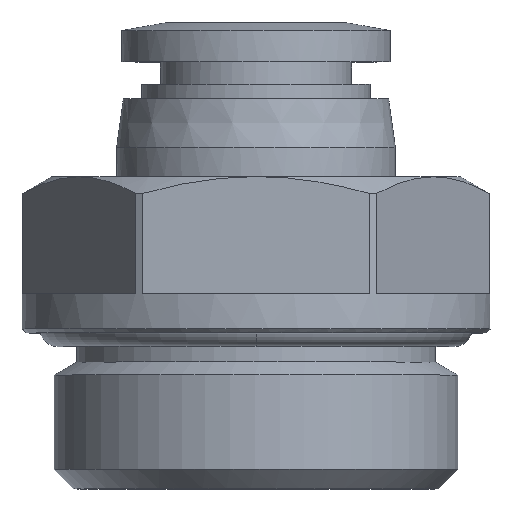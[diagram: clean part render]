
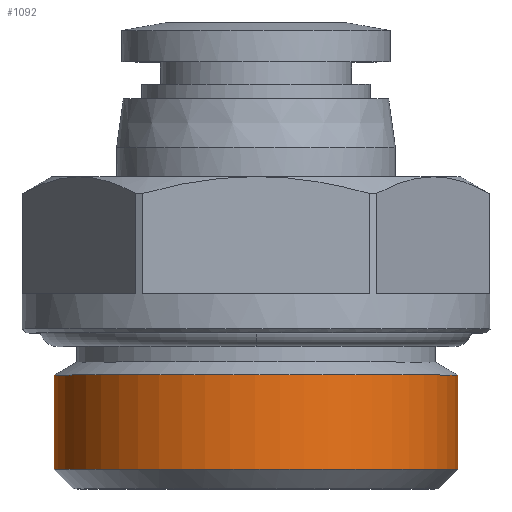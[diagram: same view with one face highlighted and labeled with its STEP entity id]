
A CAD part, top view. The second image highlights one B-rep face of the part: STEP entity #1092.
In plain terms, the highlighted cylindrical face has radius 10.35 mm (diameter 20.7 mm), a partial arc.
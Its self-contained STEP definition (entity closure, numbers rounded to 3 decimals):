
#33 = CARTESIAN_POINT ( 'NONE',  ( 2.709, 5.836, 10.081 ) ) ;
#60 = ORIENTED_EDGE ( 'NONE', *, *, #1005, .T. ) ;
#77 = VERTEX_POINT ( 'NONE', #1887 ) ;
#105 = LINE ( 'NONE', #1104, #1014 ) ;
#140 = CARTESIAN_POINT ( 'NONE',  ( 2.709, 1., 10.081 ) ) ;
#151 = DIRECTION ( 'NONE',  ( -1., 0., 0. ) ) ;
#155 = CARTESIAN_POINT ( 'NONE',  ( 10.35, 1., 0. ) ) ;
#187 = CARTESIAN_POINT ( 'NONE',  ( 9.044, 1., 5.212 ) ) ;
#200 = CARTESIAN_POINT ( 'NONE',  ( -10.35, 5.836, 0. ) ) ;
#259 = VERTEX_POINT ( 'NONE', #2806 ) ;
#266 = ORIENTED_EDGE ( 'NONE', *, *, #2541, .T. ) ;
#278 = CARTESIAN_POINT ( 'NONE',  ( 8.277, 5.836, 6.361 ) ) ;
#331 = FACE_OUTER_BOUND ( 'NONE', #1298, .T. ) ;
#369 = CARTESIAN_POINT ( 'NONE',  ( 10.35, 1., 1.355 ) ) ;
#404 = CARTESIAN_POINT ( 'NONE',  ( 1.355, 1., 10.35 ) ) ;
#414 = EDGE_CURVE ( 'NONE', #77, #259, #2954, .T. ) ;
#463 = VERTEX_POINT ( 'NONE', #200 ) ;
#489 = CARTESIAN_POINT ( 'NONE',  ( 9.044, 5.836, 5.212 ) ) ;
#522 = CARTESIAN_POINT ( 'NONE',  ( -2.709, 5.836, 10.081 ) ) ;
#600 = CYLINDRICAL_SURFACE ( 'NONE', #2845, 10.35 ) ;
#677 = VECTOR ( 'NONE', #856, 1000. ) ;
#856 = DIRECTION ( 'NONE',  ( 0., 1., 0. ) ) ;
#889 = CARTESIAN_POINT ( 'NONE',  ( -8.277, 1., 6.361 ) ) ;
#1005 = EDGE_CURVE ( 'NONE', #77, #2780, #1045, .T. ) ;
#1012 = CARTESIAN_POINT ( 'NONE',  ( 10.35, 5.836, 0. ) ) ;
#1014 = VECTOR ( 'NONE', #1134, 1000. ) ;
#1045 = LINE ( 'NONE', #2067, #677 ) ;
#1092 = ADVANCED_FACE ( 'NONE', ( #331 ), #600, .T. ) ;
#1104 = CARTESIAN_POINT ( 'NONE',  ( -10.35, 3.418, 0. ) ) ;
#1134 = DIRECTION ( 'NONE',  ( 0., 1., 0. ) ) ;
#1155 = CARTESIAN_POINT ( 'NONE',  ( 5.212, 1., 9.044 ) ) ;
#1186 = CARTESIAN_POINT ( 'NONE',  ( -1.355, 1., 10.35 ) ) ;
#1241 = CARTESIAN_POINT ( 'NONE',  ( 10.081, 5.836, 2.709 ) ) ;
#1293 = CARTESIAN_POINT ( 'NONE',  ( 1.355, 5.836, 10.35 ) ) ;
#1298 = EDGE_LOOP ( 'NONE', ( #1906, #60, #266, #1682 ) ) ;
#1331 = CARTESIAN_POINT ( 'NONE',  ( 0., 3.418, 0. ) ) ;
#1350 = DIRECTION ( 'NONE',  ( 0., 1., 0. ) ) ;
#1360 = B_SPLINE_CURVE_WITH_KNOTS ( 'NONE', 3,
 ( #1501, #2501, #1241, #489, #278, #3037, #2800, #33, #1293, #2784, #522, #3255, #3069, #1517, #1735, #2298, #2550, #2735 ),
 .UNSPECIFIED., .F., .F.,
 ( 4, 2, 2, 2, 2, 2, 2, 2, 4 ),
 ( 0.5, 0.563, 0.625, 0.688, 0.75, 0.813, 0.875, 0.938, 1. ),
 .UNSPECIFIED. ) ;
#1369 = CARTESIAN_POINT ( 'NONE',  ( 6.361, 1., 8.277 ) ) ;
#1402 = CARTESIAN_POINT ( 'NONE',  ( -5.212, 1., 9.044 ) ) ;
#1501 = CARTESIAN_POINT ( 'NONE',  ( 10.35, 5.836, 0. ) ) ;
#1517 = CARTESIAN_POINT ( 'NONE',  ( -8.277, 5.836, 6.361 ) ) ;
#1628 = CARTESIAN_POINT ( 'NONE',  ( -10.35, 1., 1.355 ) ) ;
#1682 = ORIENTED_EDGE ( 'NONE', *, *, #2449, .F. ) ;
#1735 = CARTESIAN_POINT ( 'NONE',  ( -9.044, 5.836, 5.212 ) ) ;
#1887 = CARTESIAN_POINT ( 'NONE',  ( 10.35, 1., 0. ) ) ;
#1893 = CARTESIAN_POINT ( 'NONE',  ( 8.277, 1., 6.361 ) ) ;
#1906 = ORIENTED_EDGE ( 'NONE', *, *, #414, .F. ) ;
#2067 = CARTESIAN_POINT ( 'NONE',  ( 10.35, 3.418, 0. ) ) ;
#2150 = CARTESIAN_POINT ( 'NONE',  ( -6.361, 1., 8.277 ) ) ;
#2165 = CARTESIAN_POINT ( 'NONE',  ( -2.709, 1., 10.081 ) ) ;
#2298 = CARTESIAN_POINT ( 'NONE',  ( -10.081, 5.836, 2.709 ) ) ;
#2442 = CARTESIAN_POINT ( 'NONE',  ( 10.081, 1., 2.709 ) ) ;
#2449 = EDGE_CURVE ( 'NONE', #259, #463, #105, .T. ) ;
#2501 = CARTESIAN_POINT ( 'NONE',  ( 10.35, 5.836, 1.355 ) ) ;
#2541 = EDGE_CURVE ( 'NONE', #2780, #463, #1360, .T. ) ;
#2550 = CARTESIAN_POINT ( 'NONE',  ( -10.35, 5.836, 1.355 ) ) ;
#2735 = CARTESIAN_POINT ( 'NONE',  ( -10.35, 5.836, 0. ) ) ;
#2780 = VERTEX_POINT ( 'NONE', #1012 ) ;
#2784 = CARTESIAN_POINT ( 'NONE',  ( -1.355, 5.836, 10.35 ) ) ;
#2800 = CARTESIAN_POINT ( 'NONE',  ( 5.212, 5.836, 9.044 ) ) ;
#2806 = CARTESIAN_POINT ( 'NONE',  ( -10.35, 1., 0. ) ) ;
#2845 = AXIS2_PLACEMENT_3D ( 'NONE', #1331, #1350, #151 ) ;
#2947 = CARTESIAN_POINT ( 'NONE',  ( -10.35, 1., 0. ) ) ;
#2954 = B_SPLINE_CURVE_WITH_KNOTS ( 'NONE', 3,
 ( #155, #369, #2442, #187, #1893, #1369, #1155, #140, #404, #1186, #2165, #1402, #2150, #889, #3215, #2963, #1628, #2947 ),
 .UNSPECIFIED., .F., .F.,
 ( 4, 2, 2, 2, 2, 2, 2, 2, 4 ),
 ( 0.5, 0.563, 0.625, 0.688, 0.75, 0.813, 0.875, 0.938, 1. ),
 .UNSPECIFIED. ) ;
#2963 = CARTESIAN_POINT ( 'NONE',  ( -10.081, 1., 2.709 ) ) ;
#3037 = CARTESIAN_POINT ( 'NONE',  ( 6.361, 5.836, 8.277 ) ) ;
#3069 = CARTESIAN_POINT ( 'NONE',  ( -6.361, 5.836, 8.277 ) ) ;
#3215 = CARTESIAN_POINT ( 'NONE',  ( -9.044, 1., 5.212 ) ) ;
#3255 = CARTESIAN_POINT ( 'NONE',  ( -5.212, 5.836, 9.044 ) ) ;
